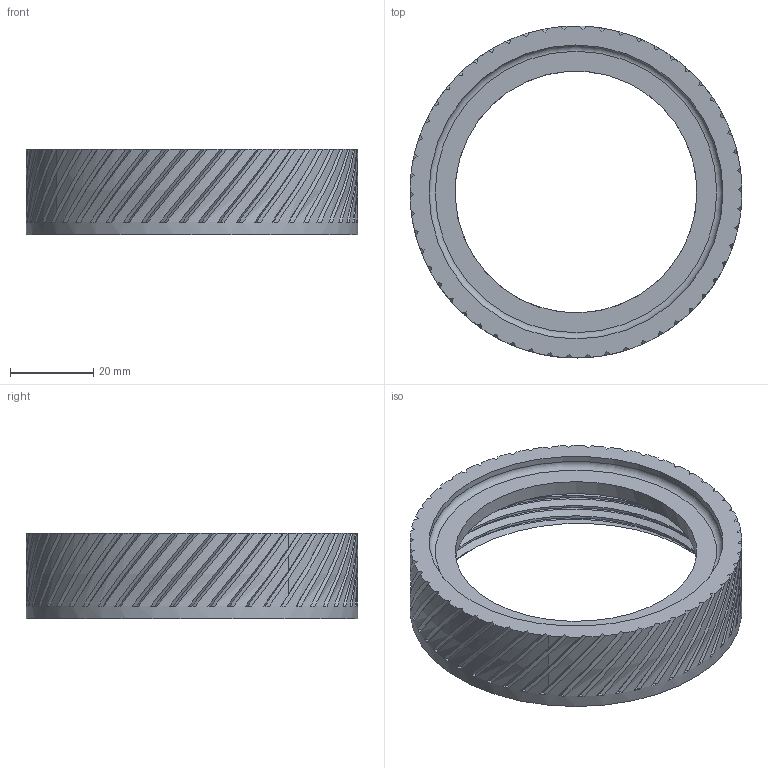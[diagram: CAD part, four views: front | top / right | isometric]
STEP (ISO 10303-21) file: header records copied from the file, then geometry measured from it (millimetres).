
FILE_DESCRIPTION(/* description */ ('STEP AP242','CAx-IF Rec.Pracs.---Representation and Presentation of Product Manufacturing Information (PMI)---4.0---2014-10-13','CAx-IF Rec.Pracs.---3D Tessellated Geometry---0.4---2014-09-14','2;1'),/* implementation_level */ '2;1');
FILE_NAME(/* name */ '646927fbcac4670533c21668',/* time_stamp */ '2023-05-20T20:05:15Z',/* author */ (''),/* organization */ (''),/* preprocessor_version */ 'ST-DEVELOPER v19.4',/* originating_system */ ' ',/* authorisation */ ' ');
FILE_SCHEMA (('AP242_MANAGED_MODEL_BASED_3D_ENGINEERING_MIM_LF { 1 0 10303 442 1 1 4 }'));
Length unit declared in the file: metre
Products named in the file (1): Base 27mm NoMagnet NoLug
Bounding box: 79.6 x 79.6 x 20.4 mm (x, y, z)
Volume: 25628.1 mm3; surface area: 15719.3 mm2
Topology: 1 solids, 1 shells, 214 faces, 628 edges, 419 vertices
Faces by surface type: bspline 135, plane 68, cylinder 7, cone 3, torus 1
Full cylindrical faces by diameter (mm): 58 x1, 70.5 x1, 79.6 x1
Entity records: 13615 total; most frequent: CARTESIAN_POINT 9488, ORIENTED_EDGE 1222, EDGE_CURVE 611, DIRECTION 424, VERTEX_POINT 410, B_SPLINE_CURVE_WITH_KNOTS 297, EDGE_LOOP 221, FACE_BOUND 221
